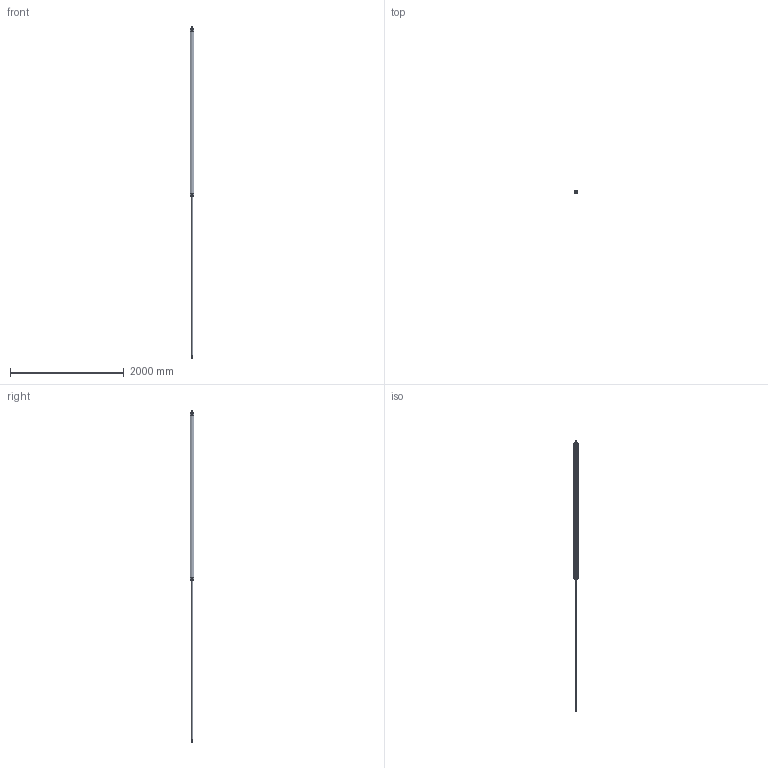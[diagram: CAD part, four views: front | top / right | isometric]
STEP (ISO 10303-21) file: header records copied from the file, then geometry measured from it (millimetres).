
FILE_DESCRIPTION(/* description */ ('Unknown'),/* implementation_level */ '2;1');
FILE_NAME(/* name */ 'HBF 50_2800',/* time_stamp */ '2025-01-13T13:47:43+01:00',/* author */ ('Unknown'),/* organization */ ('HAFNER Pneumatika Kft'),/* preprocessor_version */ 'ST-DEVELOPER v16.7',/* originating_system */ 'Solid Edge',/* authorisation */ 'Unknown');
FILE_SCHEMA (('AP242_MANAGED_MODEL_BASED_3D_ENGINEERING_MIM_LF { 1 0 10303 442 1 1 4 }','AUTOMOTIVE_DESIGN {1 0 10303 214 3 1 1}'));
Length unit declared in the file: millimetre
Products named in the file (6): HBF 50_2800; Kit; Profilrohr; Kolbenstange_1; Mutter; Kolbenstange_2
Assembly tree (7 placements, depth 2):
  HBF 50_2800
    Kit  x2
    Profilrohr
    Kolbenstange_1
    Mutter  x2
    Kolbenstange_2
Bounding box: 64.98 x 64.96 x 5844 mm (x, y, z)
Volume: 4197843.7 mm3; surface area: 2177040.9 mm2
Topology: 7 solids, 21 shells, 1154 faces, 2869 edges, 1817 vertices
Faces by surface type: plane 410, cylinder 389, cone 137, torus 112, bspline 60, sphere 46
Full cylindrical faces by diameter (mm): 1.479 x2, 2.8 x2, 6.647 x16, 8 x8, 8.3 x8, 9 x2, 10 x2, 11.44 x2, 11.445 x2, 13 x8, 13.3 x8, 13.5 x2, 14.376 x2, 16 x2, 19.5 x2, 20 x4, 20.5 x2, 20.8 x2, 20.847 x2, 24 x2, 30 x4, 38 x2, 40 x2, 50 x3
Entity records: 25626 total; most frequent: CARTESIAN_POINT 5941, ORIENTED_EDGE 3338, DIRECTION 3277, EDGE_CURVE 1669, AXIS2_PLACEMENT_3D 1289, VERTEX_POINT 1096, FACE_BOUND 791, EDGE_LOOP 787
